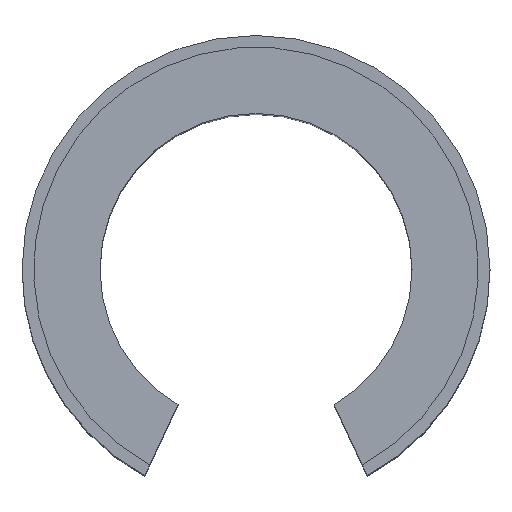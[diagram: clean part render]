
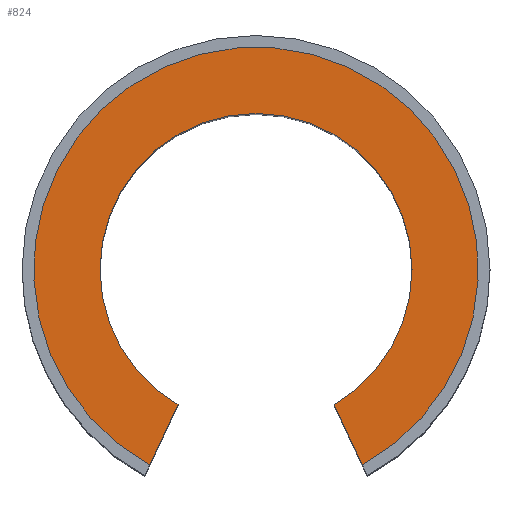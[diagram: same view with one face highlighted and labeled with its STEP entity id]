
A CAD part, top view. The second image highlights one B-rep face of the part: STEP entity #824.
In plain terms, the highlighted planar face has unit normal (0, 0, 1).
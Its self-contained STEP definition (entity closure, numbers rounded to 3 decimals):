
#51=CARTESIAN_POINT('',(20.0,0.,80.0));
#52=VERTEX_POINT('',#51);
#68=CARTESIAN_POINT('',(10.,-17.321,80.0));
#69=VERTEX_POINT('',#68);
#76=CARTESIAN_POINT('',(0.0,0.0,80.0));
#77=DIRECTION('',(0.0,0.0,-1.0));
#78=DIRECTION('',(-1.0,0.0,0.0));
#79=AXIS2_PLACEMENT_3D('',#76,#77,#78);
#80=CIRCLE('',#79,20.0);
#81=EDGE_CURVE('',#52,#69,#80,.T.);
#91=CARTESIAN_POINT('',(-20.0,0.,80.0));
#92=VERTEX_POINT('',#91);
#101=CARTESIAN_POINT('',(-10.,-17.321,80.0));
#102=VERTEX_POINT('',#101);
#103=CARTESIAN_POINT('',(0.0,0.0,80.0));
#104=DIRECTION('',(0.0,0.0,-1.0));
#105=DIRECTION('',(-1.0,0.0,0.0));
#106=AXIS2_PLACEMENT_3D('',#103,#104,#105);
#107=CIRCLE('',#106,20.0);
#108=EDGE_CURVE('',#102,#92,#107,.T.);
#469=CARTESIAN_POINT('',(-13.602,-25.045,80.0));
#470=VERTEX_POINT('',#469);
#539=CARTESIAN_POINT('',(-13.602,-25.045,80.0));
#540=DIRECTION('',(0.423,0.906,0.0));
#541=VECTOR('',#540,8.523);
#542=LINE('',#539,#541);
#543=EDGE_CURVE('',#470,#102,#542,.T.);
#553=CARTESIAN_POINT('',(13.602,-25.045,80.0));
#554=VERTEX_POINT('',#553);
#561=CARTESIAN_POINT('',(10.,-17.321,80.0));
#562=DIRECTION('',(0.423,-0.906,0.0));
#563=VECTOR('',#562,8.523);
#564=LINE('',#561,#563);
#565=EDGE_CURVE('',#69,#554,#564,.T.);
#799=CARTESIAN_POINT('',(0.0,0.0,80.0));
#800=DIRECTION('',(0.0,0.0,-1.0));
#801=DIRECTION('',(-1.0,0.0,0.0));
#802=AXIS2_PLACEMENT_3D('',#799,#800,#801);
#803=PLANE('',#802);
#804=ORIENTED_EDGE('',*,*,#565,.T.);
#805=CARTESIAN_POINT('',(0.0,0.0,80.0));
#806=DIRECTION('',(0.0,0.0,-1.0));
#807=DIRECTION('',(1.0,0.0,0.0));
#808=AXIS2_PLACEMENT_3D('',#805,#806,#807);
#809=CIRCLE('',#808,28.5);
#810=EDGE_CURVE('',#470,#554,#809,.T.);
#811=ORIENTED_EDGE('',*,*,#810,.F.);
#812=ORIENTED_EDGE('',*,*,#543,.T.);
#813=ORIENTED_EDGE('',*,*,#108,.T.);
#814=CARTESIAN_POINT('',(0.0,0.0,80.0));
#815=DIRECTION('',(0.0,0.0,-1.0));
#816=DIRECTION('',(-1.0,0.0,0.0));
#817=AXIS2_PLACEMENT_3D('',#814,#815,#816);
#818=CIRCLE('',#817,20.0);
#819=EDGE_CURVE('',#92,#52,#818,.T.);
#820=ORIENTED_EDGE('',*,*,#819,.T.);
#821=ORIENTED_EDGE('',*,*,#81,.T.);
#822=EDGE_LOOP('',(#804,#811,#812,#813,#820,#821));
#823=FACE_OUTER_BOUND('',#822,.T.);
#824=ADVANCED_FACE('',(#823),#803,.F.);
